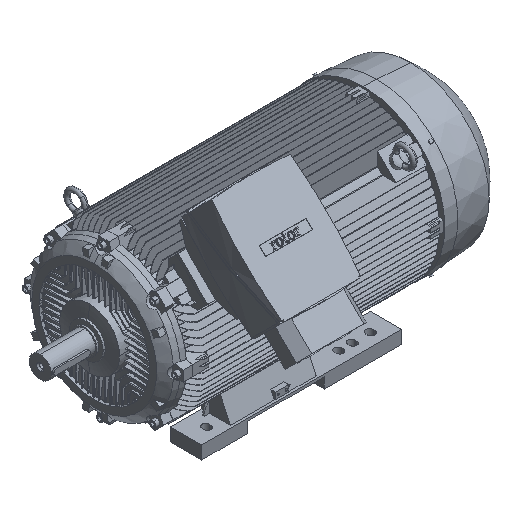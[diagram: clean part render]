
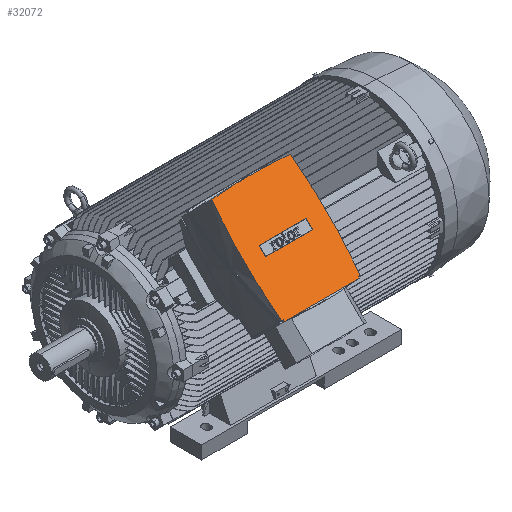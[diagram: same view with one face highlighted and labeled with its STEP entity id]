
A CAD part, isometric view. The second image highlights one B-rep face of the part: STEP entity #32072.
In plain terms, the highlighted planar face has unit normal (0, -0.707, 0.707).
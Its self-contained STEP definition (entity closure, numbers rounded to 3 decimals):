
#323 = VERTEX_POINT ( 'NONE', #56499 ) ;
#1369 = LINE ( 'NONE', #17400, #72778 ) ;
#1597 = VERTEX_POINT ( 'NONE', #13297 ) ;
#2089 = DIRECTION ( 'NONE',  ( 0., -0.707, 0.707 ) ) ;
#3650 = CARTESIAN_POINT ( 'NONE',  ( 390., -558.614, 240.416 ) ) ;
#5858 = CARTESIAN_POINT ( 'NONE',  ( 155., -432.396, 366.635 ) ) ;
#6331 = DIRECTION ( 'NONE',  ( -1., 0., 0. ) ) ;
#6643 = DIRECTION ( 'NONE',  ( 1., 0., 0. ) ) ;
#7342 = AXIS2_PLACEMENT_3D ( 'NONE', #82428, #40982, #89381 ) ;
#7772 = LINE ( 'NONE', #77490, #42377 ) ;
#8059 = CARTESIAN_POINT ( 'NONE',  ( 335., -432.396, 366.635 ) ) ;
#9093 = ORIENTED_EDGE ( 'NONE', *, *, #13411, .T. ) ;
#9327 = DIRECTION ( 'NONE',  ( 0., -0.707, 0.707 ) ) ;
#10352 = DIRECTION ( 'NONE',  ( 0., -0.707, 0.707 ) ) ;
#10577 = CARTESIAN_POINT ( 'NONE',  ( 390., -554.578, 244.453 ) ) ;
#10844 = VECTOR ( 'NONE', #6643, 1000. ) ;
#11323 = CARTESIAN_POINT ( 'NONE',  ( 100., -554.578, 244.453 ) ) ;
#12439 = VERTEX_POINT ( 'NONE', #58811 ) ;
#13297 = CARTESIAN_POINT ( 'NONE',  ( 396.02, -554.265, 244.766 ) ) ;
#13411 = EDGE_CURVE ( 'NONE', #77204, #20571, #53888, .T. ) ;
#13539 = FACE_BOUND ( 'NONE', #67688, .T. ) ;
#13548 = VERTEX_POINT ( 'NONE', #3650 ) ;
#15646 = PLANE ( 'NONE',  #33747 ) ;
#16202 = EDGE_CURVE ( 'NONE', #73761, #38619, #17237, .T. ) ;
#16992 = ORIENTED_EDGE ( 'NONE', *, *, #22702, .T. ) ;
#17099 = VECTOR ( 'NONE', #21503, 1000. ) ;
#17181 = ORIENTED_EDGE ( 'NONE', *, *, #16202, .T. ) ;
#17237 = CIRCLE ( 'NONE', #30225, 2020.86 ) ;
#17400 = CARTESIAN_POINT ( 'NONE',  ( 390., -555.079, 243.952 ) ) ;
#17579 = DIRECTION ( 'NONE',  ( 0., -0.707, 0.707 ) ) ;
#17804 = VECTOR ( 'NONE', #6331, 1000. ) ;
#19513 = LINE ( 'NONE', #20525, #10844 ) ;
#19692 = DIRECTION ( 'NONE',  ( 0., -0.707, 0.707 ) ) ;
#20525 = CARTESIAN_POINT ( 'NONE',  ( 245., -558.614, 240.416 ) ) ;
#20571 = VERTEX_POINT ( 'NONE', #8059 ) ;
#21502 = CARTESIAN_POINT ( 'NONE',  ( 100., -558.614, 240.416 ) ) ;
#21503 = DIRECTION ( 'NONE',  ( 0., -0.707, -0.707 ) ) ;
#21896 = EDGE_CURVE ( 'NONE', #12439, #77204, #55579, .T. ) ;
#22208 = DIRECTION ( 'NONE',  ( 0., -0.707, -0.707 ) ) ;
#22694 = AXIS2_PLACEMENT_3D ( 'NONE', #59050, #17579, #66063 ) ;
#22702 = EDGE_CURVE ( 'NONE', #1597, #73761, #66248, .T. ) ;
#23730 = ORIENTED_EDGE ( 'NONE', *, *, #44163, .T. ) ;
#24365 = DIRECTION ( 'NONE',  ( 0., 0.707, 0.707 ) ) ;
#25154 = CARTESIAN_POINT ( 'NONE',  ( 245., -1710.746, -911.715 ) ) ;
#27644 = EDGE_LOOP ( 'NONE', ( #67592, #16992, #17181, #39603, #33380, #55749, #64489, #62393, #55300 ) ) ;
#30225 = AXIS2_PLACEMENT_3D ( 'NONE', #50725, #9327, #57694 ) ;
#30601 = EDGE_CURVE ( 'NONE', #13548, #38476, #1369, .T. ) ;
#30735 = CARTESIAN_POINT ( 'NONE',  ( 245., -281.782, 517.249 ) ) ;
#31114 = EDGE_CURVE ( 'NONE', #61254, #75454, #81383, .T. ) ;
#32072 = ADVANCED_FACE ( 'NONE', ( #48125, #13539 ), #15646, .T. ) ;
#32104 = DIRECTION ( 'NONE',  ( 0., 0.707, 0.707 ) ) ;
#33380 = ORIENTED_EDGE ( 'NONE', *, *, #61492, .T. ) ;
#33747 = AXIS2_PLACEMENT_3D ( 'NONE', #43459, #2089, #50402 ) ;
#35117 = CARTESIAN_POINT ( 'NONE',  ( 93.98, -554.265, 244.766 ) ) ;
#35978 = CARTESIAN_POINT ( 'NONE',  ( 245., -407.647, 391.384 ) ) ;
#36224 = LINE ( 'NONE', #75236, #17804 ) ;
#37197 = VECTOR ( 'NONE', #77390, 1000. ) ;
#38476 = VERTEX_POINT ( 'NONE', #10577 ) ;
#38619 = VERTEX_POINT ( 'NONE', #30735 ) ;
#39603 = ORIENTED_EDGE ( 'NONE', *, *, #86607, .T. ) ;
#39619 = EDGE_CURVE ( 'NONE', #45051, #12439, #48824, .T. ) ;
#40982 = DIRECTION ( 'NONE',  ( 0., -0.707, 0.707 ) ) ;
#42377 = VECTOR ( 'NONE', #22208, 1000. ) ;
#43459 = CARTESIAN_POINT ( 'NONE',  ( 245., -416.486, 382.545 ) ) ;
#43799 = DIRECTION ( 'NONE',  ( 0., 0.707, 0.707 ) ) ;
#44163 = EDGE_CURVE ( 'NONE', #20571, #45051, #36224, .T. ) ;
#45051 = VERTEX_POINT ( 'NONE', #5858 ) ;
#45137 = AXIS2_PLACEMENT_3D ( 'NONE', #61113, #19692, #68071 ) ;
#48125 = FACE_OUTER_BOUND ( 'NONE', #27644, .T. ) ;
#48824 = LINE ( 'NONE', #85611, #83496 ) ;
#49571 = CARTESIAN_POINT ( 'NONE',  ( 335., -418.254, 380.777 ) ) ;
#50402 = DIRECTION ( 'NONE',  ( 0., -0.707, -0.707 ) ) ;
#50725 = CARTESIAN_POINT ( 'NONE',  ( 245., -1710.746, -911.715 ) ) ;
#51736 = CARTESIAN_POINT ( 'NONE',  ( 245., 870.703, 1669.734 ) ) ;
#53888 = LINE ( 'NONE', #49571, #17099 ) ;
#54952 = AXIS2_PLACEMENT_3D ( 'NONE', #51736, #10352, #58746 ) ;
#55300 = ORIENTED_EDGE ( 'NONE', *, *, #30601, .T. ) ;
#55579 = LINE ( 'NONE', #35978, #37197 ) ;
#55749 = ORIENTED_EDGE ( 'NONE', *, *, #31114, .T. ) ;
#56499 = CARTESIAN_POINT ( 'NONE',  ( 93.98, -285.778, 513.253 ) ) ;
#57694 = DIRECTION ( 'NONE',  ( 0., 0.707, 0.707 ) ) ;
#58746 = DIRECTION ( 'NONE',  ( 0., 0.707, 0.707 ) ) ;
#58811 = CARTESIAN_POINT ( 'NONE',  ( 155., -407.647, 391.384 ) ) ;
#59050 = CARTESIAN_POINT ( 'NONE',  ( 245., 870.703, 1669.734 ) ) ;
#60148 = CARTESIAN_POINT ( 'NONE',  ( 335., -407.647, 391.384 ) ) ;
#61113 = CARTESIAN_POINT ( 'NONE',  ( 1808.3, -420.021, 379.009 ) ) ;
#61254 = VERTEX_POINT ( 'NONE', #35117 ) ;
#61492 = EDGE_CURVE ( 'NONE', #323, #61254, #61993, .T. ) ;
#61993 = CIRCLE ( 'NONE', #45137, 1724.8 ) ;
#62393 = ORIENTED_EDGE ( 'NONE', *, *, #87194, .T. ) ;
#64489 = ORIENTED_EDGE ( 'NONE', *, *, #86369, .T. ) ;
#66063 = DIRECTION ( 'NONE',  ( 0., 0.707, 0.707 ) ) ;
#66248 = CIRCLE ( 'NONE', #7342, 1724.8 ) ;
#66406 = CARTESIAN_POINT ( 'NONE',  ( 396.02, -285.778, 513.253 ) ) ;
#66546 = EDGE_CURVE ( 'NONE', #38476, #1597, #73923, .T. ) ;
#67592 = ORIENTED_EDGE ( 'NONE', *, *, #66546, .T. ) ;
#67688 = EDGE_LOOP ( 'NONE', ( #23730, #77957, #77839, #9093 ) ) ;
#68071 = DIRECTION ( 'NONE',  ( 0., 0.707, 0.707 ) ) ;
#72778 = VECTOR ( 'NONE', #24365, 1000. ) ;
#73543 = DIRECTION ( 'NONE',  ( 0., -0.707, 0.707 ) ) ;
#73761 = VERTEX_POINT ( 'NONE', #66406 ) ;
#73923 = CIRCLE ( 'NONE', #54952, 2020.86 ) ;
#75236 = CARTESIAN_POINT ( 'NONE',  ( 245., -432.396, 366.635 ) ) ;
#75454 = VERTEX_POINT ( 'NONE', #11323 ) ;
#77204 = VERTEX_POINT ( 'NONE', #60148 ) ;
#77390 = DIRECTION ( 'NONE',  ( 1., 0., 0. ) ) ;
#77490 = CARTESIAN_POINT ( 'NONE',  ( 100., -555.079, 243.952 ) ) ;
#77839 = ORIENTED_EDGE ( 'NONE', *, *, #21896, .T. ) ;
#77957 = ORIENTED_EDGE ( 'NONE', *, *, #39619, .T. ) ;
#80182 = AXIS2_PLACEMENT_3D ( 'NONE', #25154, #73543, #32104 ) ;
#81276 = CIRCLE ( 'NONE', #80182, 2020.86 ) ;
#81383 = CIRCLE ( 'NONE', #22694, 2020.86 ) ;
#82428 = CARTESIAN_POINT ( 'NONE',  ( -1318.3, -420.021, 379.009 ) ) ;
#83496 = VECTOR ( 'NONE', #43799, 1000. ) ;
#83984 = VERTEX_POINT ( 'NONE', #21502 ) ;
#85611 = CARTESIAN_POINT ( 'NONE',  ( 155., -418.254, 380.777 ) ) ;
#86369 = EDGE_CURVE ( 'NONE', #75454, #83984, #7772, .T. ) ;
#86607 = EDGE_CURVE ( 'NONE', #38619, #323, #81276, .T. ) ;
#87194 = EDGE_CURVE ( 'NONE', #83984, #13548, #19513, .T. ) ;
#89381 = DIRECTION ( 'NONE',  ( 0., 0.707, 0.707 ) ) ;
